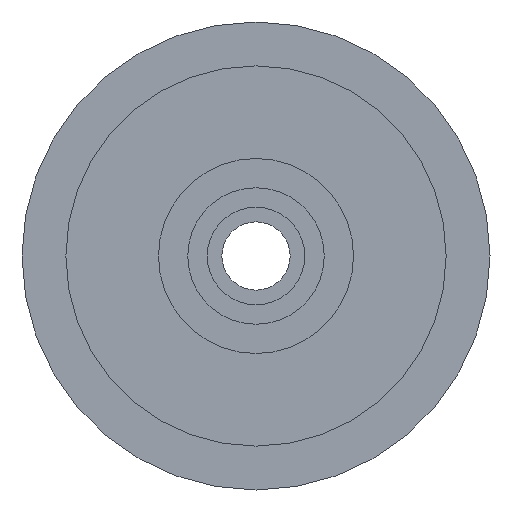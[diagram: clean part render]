
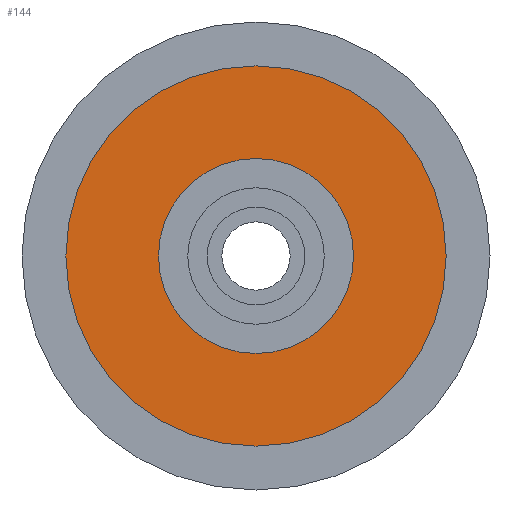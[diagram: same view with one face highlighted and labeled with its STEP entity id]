
A CAD part, left-side view. The second image highlights one B-rep face of the part: STEP entity #144.
In plain terms, the highlighted planar face has unit normal (-1, 0, 0).
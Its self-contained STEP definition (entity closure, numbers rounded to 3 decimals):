
#24 = VERTEX_POINT('',#25);
#25 = CARTESIAN_POINT('',(32.,39.,0.));
#32 = CYLINDRICAL_SURFACE('',#33,39.);
#33 = AXIS2_PLACEMENT_3D('',#34,#35,#36);
#34 = CARTESIAN_POINT('',(32.,0.,0.));
#35 = DIRECTION('',(-1.,-0.,-0.));
#36 = DIRECTION('',(0.,1.,0.));
#51 = EDGE_CURVE('',#24,#24,#52,.T.);
#52 = SURFACE_CURVE('',#53,(#58,#65),.PCURVE_S1.);
#53 = CIRCLE('',#54,39.);
#54 = AXIS2_PLACEMENT_3D('',#55,#56,#57);
#55 = CARTESIAN_POINT('',(32.,0.,0.));
#56 = DIRECTION('',(1.,0.,0.));
#57 = DIRECTION('',(0.,1.,0.));
#58 = PCURVE('',#32,#59);
#59 = DEFINITIONAL_REPRESENTATION('',(#60),#64);
#60 = LINE('',#61,#62);
#61 = CARTESIAN_POINT('',(-0.,0.));
#62 = VECTOR('',#63,1.);
#63 = DIRECTION('',(-1.,0.));
#64 = ( GEOMETRIC_REPRESENTATION_CONTEXT(2) 
PARAMETRIC_REPRESENTATION_CONTEXT() REPRESENTATION_CONTEXT('2D SPACE',''
  ) );
#65 = PCURVE('',#66,#71);
#66 = PLANE('',#67);
#67 = AXIS2_PLACEMENT_3D('',#68,#69,#70);
#68 = CARTESIAN_POINT('',(32.,0.,0.));
#69 = DIRECTION('',(1.,0.,0.));
#70 = DIRECTION('',(-0.,0.,1.));
#71 = DEFINITIONAL_REPRESENTATION('',(#72),#76);
#72 = CIRCLE('',#73,39.);
#73 = AXIS2_PLACEMENT_2D('',#74,#75);
#74 = CARTESIAN_POINT('',(0.,0.));
#75 = DIRECTION('',(0.,-1.));
#76 = ( GEOMETRIC_REPRESENTATION_CONTEXT(2) 
PARAMETRIC_REPRESENTATION_CONTEXT() REPRESENTATION_CONTEXT('2D SPACE',''
  ) );
#144 = ADVANCED_FACE('',(#145,#148),#66,.F.);
#145 = FACE_BOUND('',#146,.F.);
#146 = EDGE_LOOP('',(#147));
#147 = ORIENTED_EDGE('',*,*,#51,.T.);
#148 = FACE_BOUND('',#149,.F.);
#149 = EDGE_LOOP('',(#150));
#150 = ORIENTED_EDGE('',*,*,#151,.T.);
#151 = EDGE_CURVE('',#152,#152,#154,.T.);
#152 = VERTEX_POINT('',#153);
#153 = CARTESIAN_POINT('',(32.,20.,0.));
#154 = SURFACE_CURVE('',#155,(#160,#171),.PCURVE_S1.);
#155 = CIRCLE('',#156,20.);
#156 = AXIS2_PLACEMENT_3D('',#157,#158,#159);
#157 = CARTESIAN_POINT('',(32.,0.,0.));
#158 = DIRECTION('',(-1.,0.,0.));
#159 = DIRECTION('',(0.,1.,0.));
#160 = PCURVE('',#66,#161);
#161 = DEFINITIONAL_REPRESENTATION('',(#162),#170);
#162 = ( BOUNDED_CURVE() B_SPLINE_CURVE(2,(#163,#164,#165,#166,#167,#168
,#169),.UNSPECIFIED.,.T.,.F.) B_SPLINE_CURVE_WITH_KNOTS((1,2,2,2,2,1),(
    -2.094,0.,2.094,4.189,6.283,
8.378),.UNSPECIFIED.) CURVE() GEOMETRIC_REPRESENTATION_ITEM() 
RATIONAL_B_SPLINE_CURVE((1.,0.5,1.,0.5,1.,0.5,1.)) REPRESENTATION_ITEM(
  '') );
#163 = CARTESIAN_POINT('',(0.,-20.));
#164 = CARTESIAN_POINT('',(-34.641,-20.));
#165 = CARTESIAN_POINT('',(-17.321,10.));
#166 = CARTESIAN_POINT('',(0.,40.));
#167 = CARTESIAN_POINT('',(17.321,10.));
#168 = CARTESIAN_POINT('',(34.641,-20.));
#169 = CARTESIAN_POINT('',(0.,-20.));
#170 = ( GEOMETRIC_REPRESENTATION_CONTEXT(2) 
PARAMETRIC_REPRESENTATION_CONTEXT() REPRESENTATION_CONTEXT('2D SPACE',''
  ) );
#171 = PCURVE('',#172,#177);
#172 = CYLINDRICAL_SURFACE('',#173,20.);
#173 = AXIS2_PLACEMENT_3D('',#174,#175,#176);
#174 = CARTESIAN_POINT('',(7.,0.,0.));
#175 = DIRECTION('',(-1.,-0.,-0.));
#176 = DIRECTION('',(0.,1.,0.));
#177 = DEFINITIONAL_REPRESENTATION('',(#178),#182);
#178 = LINE('',#179,#180);
#179 = CARTESIAN_POINT('',(-6.283,-25.));
#180 = VECTOR('',#181,1.);
#181 = DIRECTION('',(1.,-0.));
#182 = ( GEOMETRIC_REPRESENTATION_CONTEXT(2) 
PARAMETRIC_REPRESENTATION_CONTEXT() REPRESENTATION_CONTEXT('2D SPACE',''
  ) );
